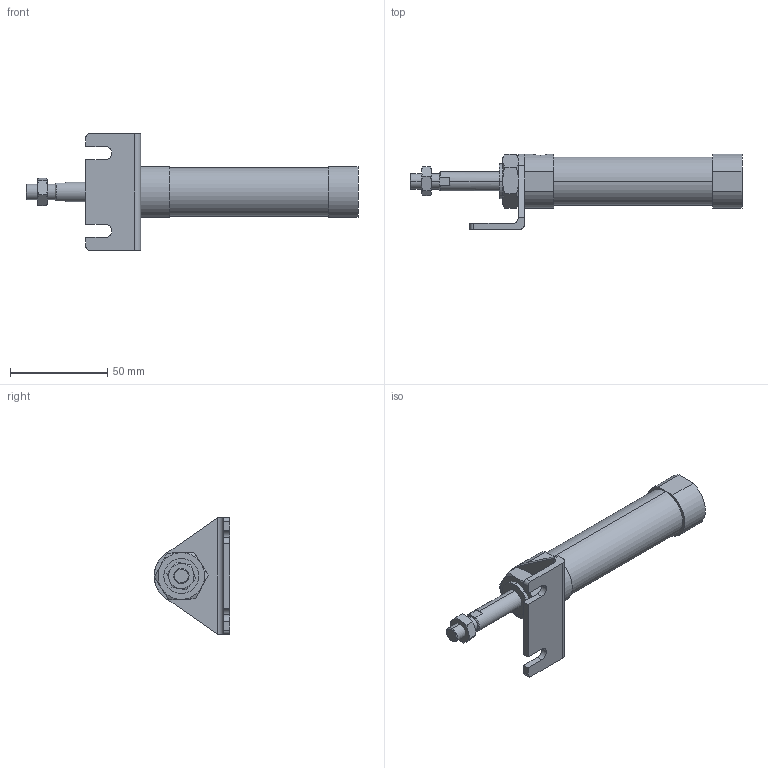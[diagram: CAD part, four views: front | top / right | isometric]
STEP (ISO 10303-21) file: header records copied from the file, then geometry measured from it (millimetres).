
FILE_DESCRIPTION (( 'STEP AP203' ), '1' );
FILE_NAME ('JGND0-20-25-L.STEP', '2016-08-04T02:04:02', ( '' ), ( '' ), 'SwSTEP 2.0', 'SolidWorks 2014', '' );
FILE_SCHEMA (( 'CONFIG_CONTROL_DESIGN' ));
Length unit declared in the file: millimetre
Products named in the file (5): JGND0-20-25-L; J#0-20-25(P); J#2-20-L
Assembly tree (4 placements, depth 2):
  JGND0-20-25-L
    J#0-20-25(P)
    (unnamed)
    (unnamed)
    J#2-20-L
Bounding box: 171 x 39 x 60 mm (x, y, z)
Volume: 75256.5 mm3; surface area: 21188.2 mm2
Topology: 4 solids, 4 shells, 108 faces, 249 edges, 156 vertices
Faces by surface type: plane 48, cylinder 32, torus 24, cone 4
Entity records: 3864 total; most frequent: CARTESIAN_POINT 910, DIRECTION 519, ORIENTED_EDGE 498, EDGE_CURVE 249, AXIS2_PLACEMENT_3D 209, VERTEX_POINT 156, EDGE_LOOP 121, FACE_OUTER_BOUND 108
